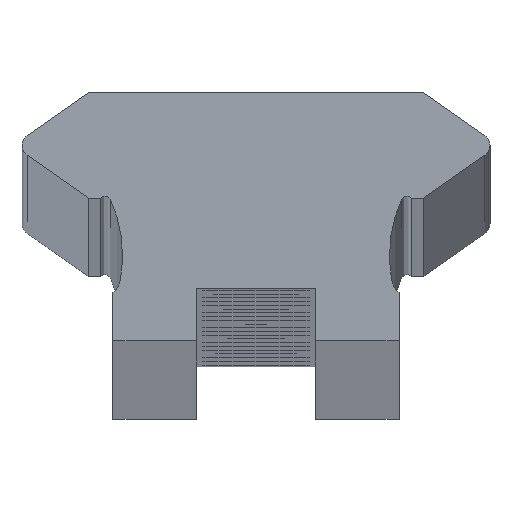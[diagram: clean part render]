
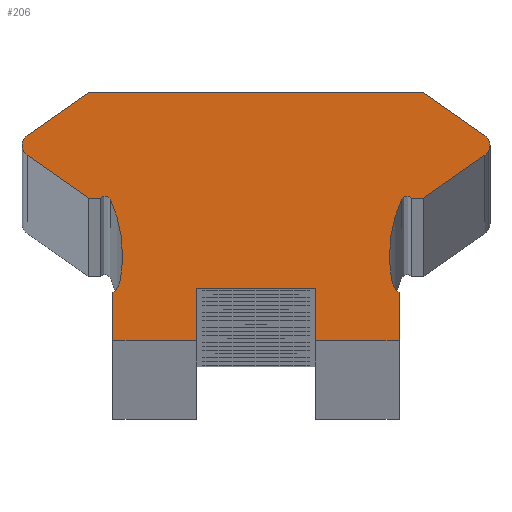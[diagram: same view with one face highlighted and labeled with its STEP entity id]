
A CAD part, top view. The second image highlights one B-rep face of the part: STEP entity #206.
In plain terms, the highlighted planar face has unit normal (0, 0, 1).
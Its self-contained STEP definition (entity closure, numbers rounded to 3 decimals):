
#206=ADVANCED_FACE('',(#534),#535,.T.);
#534=FACE_OUTER_BOUND('',#863,.T.);
#535=PLANE('',#864);
#863=EDGE_LOOP('',(#1868,#1869,#1870,#1871,#1872,#1873,#1874,#1875,#1876,#1877,#1878,#1879,#1880,#1881,#1882,#1883,#1884,#1885,#1886,#1887,#1888,#1889,#1890,#1891,#1892,#1893));
#864=AXIS2_PLACEMENT_3D('',#1894,#1895,#1896);
#1868=ORIENTED_EDGE('',*,*,#2194,.F.);
#1869=ORIENTED_EDGE('',*,*,#2254,.F.);
#1870=ORIENTED_EDGE('',*,*,#2251,.F.);
#1871=ORIENTED_EDGE('',*,*,#2248,.F.);
#1872=ORIENTED_EDGE('',*,*,#2245,.F.);
#1873=ORIENTED_EDGE('',*,*,#2242,.F.);
#1874=ORIENTED_EDGE('',*,*,#2239,.F.);
#1875=ORIENTED_EDGE('',*,*,#2236,.F.);
#1876=ORIENTED_EDGE('',*,*,#1927,.F.);
#1877=ORIENTED_EDGE('',*,*,#2235,.F.);
#1878=ORIENTED_EDGE('',*,*,#2231,.F.);
#1879=ORIENTED_EDGE('',*,*,#2228,.F.);
#1880=ORIENTED_EDGE('',*,*,#2225,.F.);
#1881=ORIENTED_EDGE('',*,*,#2222,.F.);
#1882=ORIENTED_EDGE('',*,*,#1933,.F.);
#1883=ORIENTED_EDGE('',*,*,#2220,.F.);
#1884=ORIENTED_EDGE('',*,*,#2217,.F.);
#1885=ORIENTED_EDGE('',*,*,#2214,.F.);
#1886=ORIENTED_EDGE('',*,*,#1935,.F.);
#1887=ORIENTED_EDGE('',*,*,#2213,.F.);
#1888=ORIENTED_EDGE('',*,*,#2209,.F.);
#1889=ORIENTED_EDGE('',*,*,#2206,.F.);
#1890=ORIENTED_EDGE('',*,*,#2203,.F.);
#1891=ORIENTED_EDGE('',*,*,#2200,.F.);
#1892=ORIENTED_EDGE('',*,*,#1941,.F.);
#1893=ORIENTED_EDGE('',*,*,#2198,.F.);
#1894=CARTESIAN_POINT('',(0.,5.568,1886.0));
#1895=DIRECTION('',(0.0,0.0,1.0));
#1896=DIRECTION('',(1.0,0.0,0.0));
#1927=EDGE_CURVE('',#2256,#2259,#2260,.T.);
#1933=EDGE_CURVE('',#2269,#2265,#2271,.T.);
#1935=EDGE_CURVE('',#2272,#2275,#2276,.T.);
#1941=EDGE_CURVE('',#2285,#2281,#2287,.T.);
#2194=EDGE_CURVE('',#2708,#2709,#2710,.T.);
#2198=EDGE_CURVE('',#2709,#2285,#2716,.T.);
#2200=EDGE_CURVE('',#2281,#2718,#2719,.T.);
#2203=EDGE_CURVE('',#2718,#2723,#2724,.T.);
#2206=EDGE_CURVE('',#2723,#2728,#2729,.T.);
#2209=EDGE_CURVE('',#2728,#2733,#2734,.T.);
#2213=EDGE_CURVE('',#2733,#2272,#2739,.T.);
#2214=EDGE_CURVE('',#2275,#2740,#2741,.T.);
#2217=EDGE_CURVE('',#2740,#2745,#2746,.T.);
#2220=EDGE_CURVE('',#2745,#2269,#2750,.T.);
#2222=EDGE_CURVE('',#2265,#2752,#2753,.T.);
#2225=EDGE_CURVE('',#2752,#2757,#2758,.T.);
#2228=EDGE_CURVE('',#2757,#2762,#2763,.T.);
#2231=EDGE_CURVE('',#2762,#2767,#2768,.T.);
#2235=EDGE_CURVE('',#2767,#2256,#2773,.T.);
#2236=EDGE_CURVE('',#2259,#2774,#2775,.T.);
#2239=EDGE_CURVE('',#2774,#2779,#2780,.T.);
#2242=EDGE_CURVE('',#2779,#2784,#2785,.T.);
#2245=EDGE_CURVE('',#2784,#2789,#2790,.T.);
#2248=EDGE_CURVE('',#2789,#2794,#2795,.T.);
#2251=EDGE_CURVE('',#2794,#2799,#2800,.T.);
#2254=EDGE_CURVE('',#2799,#2708,#2804,.T.);
#2256=VERTEX_POINT('',#2806);
#2259=VERTEX_POINT('',#2810);
#2260=CIRCLE('',#2811,5.653);
#2265=VERTEX_POINT('',#2817);
#2269=VERTEX_POINT('',#2822);
#2271=CIRCLE('',#2825,0.5);
#2272=VERTEX_POINT('',#2826);
#2275=VERTEX_POINT('',#2830);
#2276=CIRCLE('',#2831,0.5);
#2281=VERTEX_POINT('',#2837);
#2285=VERTEX_POINT('',#2842);
#2287=CIRCLE('',#2845,5.653);
#2708=VERTEX_POINT('',#3350);
#2709=VERTEX_POINT('',#3351);
#2710=LINE('',#3352,#3353);
#2716=CIRCLE('',#3362,0.886);
#2718=VERTEX_POINT('',#3364);
#2719=CIRCLE('',#3365,5.653);
#2723=VERTEX_POINT('',#3370);
#2724=CIRCLE('',#3371,0.253);
#2728=VERTEX_POINT('',#3376);
#2729=LINE('',#3377,#3378);
#2733=VERTEX_POINT('',#3384);
#2734=LINE('',#3385,#3386);
#2739=CIRCLE('',#3393,0.5);
#2740=VERTEX_POINT('',#3394);
#2741=LINE('',#3395,#3396);
#2745=VERTEX_POINT('',#3402);
#2746=LINE('',#3403,#3404);
#2750=LINE('',#3410,#3411);
#2752=VERTEX_POINT('',#3414);
#2753=CIRCLE('',#3415,0.5);
#2757=VERTEX_POINT('',#3420);
#2758=LINE('',#3421,#3422);
#2762=VERTEX_POINT('',#3428);
#2763=LINE('',#3429,#3430);
#2767=VERTEX_POINT('',#3436);
#2768=CIRCLE('',#3437,0.253);
#2773=CIRCLE('',#3443,5.653);
#2774=VERTEX_POINT('',#3444);
#2775=CIRCLE('',#3445,0.886);
#2779=VERTEX_POINT('',#3450);
#2780=LINE('',#3451,#3452);
#2784=VERTEX_POINT('',#3458);
#2785=LINE('',#3459,#3460);
#2789=VERTEX_POINT('',#3466);
#2790=LINE('',#3467,#3468);
#2794=VERTEX_POINT('',#3474);
#2795=LINE('',#3475,#3476);
#2799=VERTEX_POINT('',#3482);
#2800=LINE('',#3483,#3484);
#2804=LINE('',#3490,#3491);
#2806=CARTESIAN_POINT('',(5.6,3.598,1886.0));
#2810=CARTESIAN_POINT('',(5.701,2.535,1886.0));
#2811=AXIS2_PLACEMENT_3D('',#3495,#3496,#3497);
#2817=CARTESIAN_POINT('',(9.813,8.2,1886.0));
#2822=CARTESIAN_POINT('',(9.6,8.61,1886.0));
#2825=AXIS2_PLACEMENT_3D('',#3507,#3508,#3509);
#2826=CARTESIAN_POINT('',(-9.813,8.2,1886.0));
#2830=CARTESIAN_POINT('',(-9.6,8.61,1886.0));
#2831=AXIS2_PLACEMENT_3D('',#3511,#3512,#3513);
#2837=CARTESIAN_POINT('',(-5.6,3.598,1886.0));
#2842=CARTESIAN_POINT('',(-5.701,2.535,1886.0));
#2845=AXIS2_PLACEMENT_3D('',#3523,#3524,#3525);
#3350=CARTESIAN_POINT('',(-6.0,0.0,1886.0));
#3351=CARTESIAN_POINT('',(-6.,2.009,1886.0));
#3352=CARTESIAN_POINT('',(-6.0,2.009,1886.0));
#3353=VECTOR('',#4114,1.0);
#3362=AXIS2_PLACEMENT_3D('',#4118,#4119,#4120);
#3364=CARTESIAN_POINT('',(-6.108,5.941,1886.0));
#3365=AXIS2_PLACEMENT_3D('',#4124,#4125,#4126);
#3370=CARTESIAN_POINT('',(-6.525,5.99,1886.0));
#3371=AXIS2_PLACEMENT_3D('',#4131,#4132,#4133);
#3376=CARTESIAN_POINT('',(-7.029,5.99,1886.0));
#3377=CARTESIAN_POINT('',(-7.029,5.99,1886.0));
#3378=VECTOR('',#4138,1.0);
#3384=CARTESIAN_POINT('',(-9.6,7.79,1886.0));
#3385=CARTESIAN_POINT('',(-9.6,7.79,1886.0));
#3386=VECTOR('',#4141,1.0);
#3393=AXIS2_PLACEMENT_3D('',#4147,#4148,#4149);
#3394=CARTESIAN_POINT('',(-7.029,10.41,1886.0));
#3395=CARTESIAN_POINT('',(-7.029,10.41,1886.0));
#3396=VECTOR('',#4150,1.0);
#3402=CARTESIAN_POINT('',(7.029,10.41,1886.0));
#3403=CARTESIAN_POINT('',(7.029,10.41,1886.0));
#3404=VECTOR('',#4153,1.0);
#3410=CARTESIAN_POINT('',(9.6,8.61,1886.0));
#3411=VECTOR('',#4156,1.0);
#3414=CARTESIAN_POINT('',(9.6,7.79,1886.0));
#3415=AXIS2_PLACEMENT_3D('',#4158,#4159,#4160);
#3420=CARTESIAN_POINT('',(7.029,5.99,1886.0));
#3421=CARTESIAN_POINT('',(7.029,5.99,1886.0));
#3422=VECTOR('',#4165,1.0);
#3428=CARTESIAN_POINT('',(6.525,5.99,1886.0));
#3429=CARTESIAN_POINT('',(7.029,5.99,1886.0));
#3430=VECTOR('',#4168,1.0);
#3436=CARTESIAN_POINT('',(6.108,5.941,1886.0));
#3437=AXIS2_PLACEMENT_3D('',#4171,#4172,#4173);
#3443=AXIS2_PLACEMENT_3D('',#4181,#4182,#4183);
#3444=CARTESIAN_POINT('',(6.0,2.009,1886.0));
#3445=AXIS2_PLACEMENT_3D('',#4184,#4185,#4186);
#3450=CARTESIAN_POINT('',(6.0,0.0,1886.0));
#3451=CARTESIAN_POINT('',(6.0,2.009,1886.0));
#3452=VECTOR('',#4191,1.0);
#3458=CARTESIAN_POINT('',(2.5,0.0,1886.0));
#3459=CARTESIAN_POINT('',(2.5,0.0,1886.0));
#3460=VECTOR('',#4194,1.0);
#3466=CARTESIAN_POINT('',(2.5,2.2,1886.0));
#3467=CARTESIAN_POINT('',(2.5,2.2,1886.0));
#3468=VECTOR('',#4197,1.0);
#3474=CARTESIAN_POINT('',(-2.5,2.2,1886.0));
#3475=CARTESIAN_POINT('',(-2.5,2.2,1886.0));
#3476=VECTOR('',#4200,1.0);
#3482=CARTESIAN_POINT('',(-2.5,0.0,1886.0));
#3483=CARTESIAN_POINT('',(-2.5,0.0,1886.0));
#3484=VECTOR('',#4203,1.0);
#3490=CARTESIAN_POINT('',(-6.0,0.0,1886.0));
#3491=VECTOR('',#4206,1.0);
#3495=CARTESIAN_POINT('',(11.254,3.598,1886.0));
#3496=DIRECTION('',(0.0,0.0,1.0));
#3497=DIRECTION('',(1.0,0.0,0.0));
#3507=CARTESIAN_POINT('',(9.313,8.2,1886.0));
#3508=DIRECTION('',(0.0,0.0,-1.0));
#3509=DIRECTION('',(1.0,0.0,0.0));
#3511=CARTESIAN_POINT('',(-9.313,8.2,1886.0));
#3512=DIRECTION('',(0.0,0.0,-1.0));
#3513=DIRECTION('',(1.0,0.0,0.0));
#3523=CARTESIAN_POINT('',(-11.254,3.598,1886.0));
#3524=DIRECTION('',(0.0,0.0,1.0));
#3525=DIRECTION('',(1.0,0.0,0.0));
#4114=DIRECTION('',(0.0,1.0,0.0));
#4118=CARTESIAN_POINT('',(-6.574,2.683,1886.0));
#4119=DIRECTION('',(0.0,0.0,1.0));
#4120=DIRECTION('',(1.0,0.0,0.0));
#4124=CARTESIAN_POINT('',(-11.254,3.598,1886.0));
#4125=DIRECTION('',(0.0,0.0,1.0));
#4126=DIRECTION('',(1.0,0.0,0.0));
#4131=CARTESIAN_POINT('',(-6.333,5.826,1886.0));
#4132=DIRECTION('',(0.0,0.0,1.0));
#4133=DIRECTION('',(1.0,0.0,0.0));
#4138=DIRECTION('',(-1.0,-0.0,-0.0));
#4141=DIRECTION('',(-0.819,0.574,0.0));
#4147=CARTESIAN_POINT('',(-9.313,8.2,1886.0));
#4148=DIRECTION('',(0.0,0.0,-1.0));
#4149=DIRECTION('',(1.0,0.0,0.0));
#4150=DIRECTION('',(0.819,0.574,0.0));
#4153=DIRECTION('',(1.0,0.0,0.0));
#4156=DIRECTION('',(0.819,-0.574,0.0));
#4158=CARTESIAN_POINT('',(9.313,8.2,1886.0));
#4159=DIRECTION('',(0.0,0.0,-1.0));
#4160=DIRECTION('',(1.0,0.0,0.0));
#4165=DIRECTION('',(-0.819,-0.574,-0.0));
#4168=DIRECTION('',(-1.0,0.0,0.0));
#4171=CARTESIAN_POINT('',(6.333,5.826,1886.0));
#4172=DIRECTION('',(0.0,0.0,1.0));
#4173=DIRECTION('',(1.0,0.0,0.0));
#4181=CARTESIAN_POINT('',(11.254,3.598,1886.0));
#4182=DIRECTION('',(0.0,0.0,1.0));
#4183=DIRECTION('',(1.0,0.0,0.0));
#4184=CARTESIAN_POINT('',(6.574,2.683,1886.0));
#4185=DIRECTION('',(0.0,0.0,1.0));
#4186=DIRECTION('',(1.0,0.0,0.0));
#4191=DIRECTION('',(0.0,-1.0,0.0));
#4194=DIRECTION('',(-1.0,-0.0,-0.0));
#4197=DIRECTION('',(0.0,1.0,0.0));
#4200=DIRECTION('',(-1.0,-0.0,-0.0));
#4203=DIRECTION('',(-0.0,-1.0,-0.0));
#4206=DIRECTION('',(-1.0,-0.0,-0.0));
